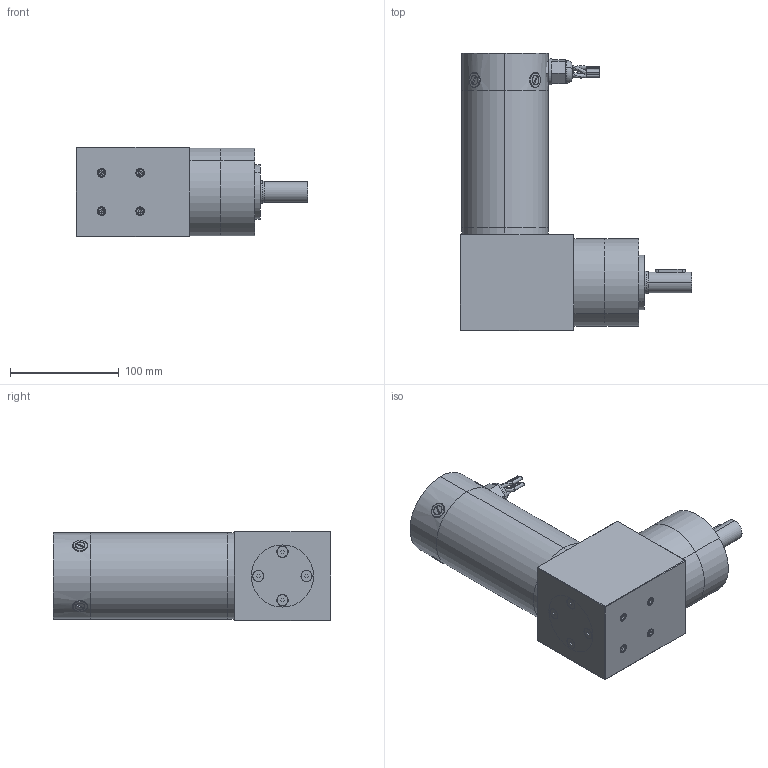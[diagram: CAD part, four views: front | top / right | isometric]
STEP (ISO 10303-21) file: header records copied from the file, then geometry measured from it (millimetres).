
FILE_DESCRIPTION (( 'STEP AP203' ), '1' );
FILE_NAME ('d33655agra1.step', '2018-12-07T19:42:04', ( '' ), ( '' ), 'SwSTEP 2.0', 'SolidWorks 2017', '' );
FILE_SCHEMA (( 'CONFIG_CONTROL_DESIGN' ));
Length unit declared in the file: inch
Products named in the file (1): d33655agra1
Bounding box: 213.32 x 255.27 x 82.55 mm (x, y, z)
Volume: 1925321 mm3; surface area: 217700.1 mm2
Topology: 29 solids, 29 shells, 1229 faces, 3087 edges, 1961 vertices
Faces by surface type: cylinder 713, plane 364, cone 89, torus 39, bspline 16, sphere 8
Entity records: 56619 total; most frequent: CARTESIAN_POINT 29736, ORIENTED_EDGE 6126, DIRECTION 5186, EDGE_CURVE 3063, VERTEX_POINT 1961, AXIS2_PLACEMENT_3D 1955, EDGE_LOOP 1334, VECTOR 1276
